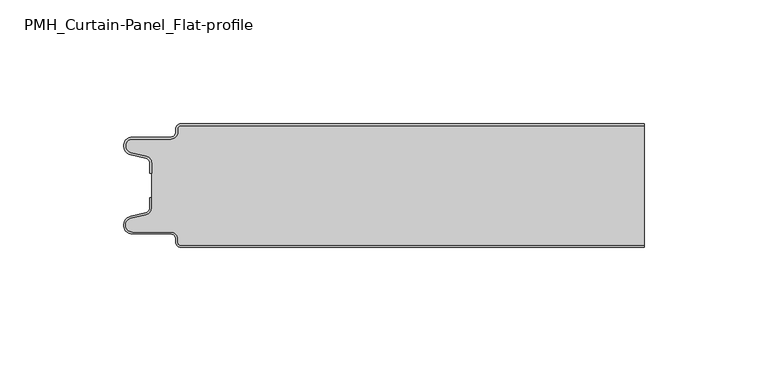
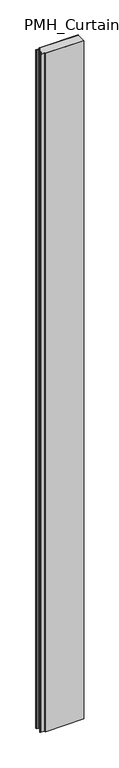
"""IFC4 building model written with IfcOpenShell, lengths in millimetres: plate geometry, PMH_Curtain-Panel_Flat-profile : ACH_PMH_Stone-wool-Panel_50M."""

from ifc_helpers import new_model, si_unit, point, frame_2d, origin, origin_with_axes, place, context, project, spatial, polyline, circle_curve, trimmed, segment, composite_curve, outline, extrude, source, transform, mapped, element, save


def pmh_curtain_panel_flat_profile_cc251eb6(model_context):
    return source(origin(), model_context, "Body", "SweptSolid", [
        extrude(outline(composite_curve([segment(trimmed(circle_curve(frame_2d((-87.4119739, -2.0)), 1.2), [point((-87.4119739, -0.8))], [point((-88.6119739, -2.0))], True, "CARTESIAN"), True, "CONTINUOUS"), segment(polyline([(-88.6119739, -2.0), (-88.6119739, -3.4)]), True, "CONTINUOUS"), segment(trimmed(circle_curve(frame_2d((-91.4119739, -3.4)), 2.8), [point((-88.6119739, -3.4))], [point((-91.4119739, -6.2))], False, "CARTESIAN"), True, "CONTINUOUS"), segment(polyline([(-91.4119739, -6.2), (-106.9119739, -6.2)]), True, "CONTINUOUS"), segment(trimmed(circle_curve(frame_2d((-106.9119739, -9.0)), 2.8), [point((-106.9119739, -6.2))], [point((-107.541837, -11.7282362))], True, "CARTESIAN"), True, "CONTINUOUS"), segment(polyline([(-107.541837, -11.7282362), (-101.3821109, -13.150321)]), True, "CONTINUOUS"), segment(trimmed(circle_curve(frame_2d((-102.0119739, -15.878557)), 2.8), [point((-101.3821109, -13.150321))], [point((-99.2119739, -15.878557))], False, "CARTESIAN"), True, "CONTINUOUS"), segment(polyline([(-99.2119739, -15.878557), (-99.2119739, -20.0), (-100.0119739, -20.0), (-100.0119739, -15.878557)]), True, "CONTINUOUS"), segment(trimmed(circle_curve(frame_2d((-102.0119739, -15.878557)), 2.0), [point((-100.0119739, -15.878557))], [point((-101.5620718, -13.9298169))], True, "CARTESIAN"), True, "CONTINUOUS"), segment(polyline([(-101.5620718, -13.9298169), (-107.7217978, -12.507732)]), True, "CONTINUOUS"), segment(trimmed(circle_curve(frame_2d((-106.9119739, -9.0)), 3.6), [point((-107.7217978, -12.507732))], [point((-106.9119739, -5.4))], False, "CARTESIAN"), True, "CONTINUOUS"), segment(polyline([(-106.9119739, -5.4), (-91.4119739, -5.4)]), True, "CONTINUOUS"), segment(trimmed(circle_curve(frame_2d((-91.4119739, -3.4)), 2.0), [point((-91.4119739, -5.4))], [point((-89.4119739, -3.4))], True, "CARTESIAN"), True, "CONTINUOUS"), segment(polyline([(-89.4119739, -3.4), (-89.4119739, -2.0)]), True, "CONTINUOUS"), segment(trimmed(circle_curve(frame_2d((-87.4119739, -2.0)), 2.0), [point((-89.4119739, -2.0))], [point((-87.4119739, 0.0))], False, "CARTESIAN"), True, "CONTINUOUS"), segment(polyline([(-87.4119739, 0.0), (100.0119739, 0.0), (100.0119739, -0.8), (-87.4119739, -0.8)]), True, "CONTINUOUS")], self_intersect=False)), origin_with_axes(), (0.0, 0.0, 1.0), 3500.0),
        extrude(outline(composite_curve([segment(polyline([(-99.2119739, -34.1214426), (-99.2119739, -15.8785573)]), True, "CONTINUOUS"), segment(trimmed(circle_curve(frame_2d((-102.0119739, -15.8785573)), 2.8), [point((-99.2119739, -15.8785573))], [point((-101.3821109, -13.1503212))], True, "CARTESIAN"), True, "CONTINUOUS"), segment(polyline([(-101.3821109, -13.1503212), (-107.541837, -11.7282362)]), True, "CONTINUOUS"), segment(trimmed(circle_curve(frame_2d((-106.911974, -9.0)), 2.8), [point((-107.541837, -11.7282362))], [point((-106.911974, -6.2))], False, "CARTESIAN"), True, "CONTINUOUS"), segment(polyline([(-106.911974, -6.2), (-91.411974, -6.2)]), True, "CONTINUOUS"), segment(trimmed(circle_curve(frame_2d((-91.411974, -3.4)), 2.8), [point((-91.411974, -6.2))], [point((-88.611974, -3.4))], True, "CARTESIAN"), True, "CONTINUOUS"), segment(polyline([(-88.611974, -3.4), (-88.611974, -2.0)]), True, "CONTINUOUS"), segment(trimmed(circle_curve(frame_2d((-87.411974, -2.0)), 1.2), [point((-88.611974, -2.0))], [point((-87.411974, -0.8))], False, "CARTESIAN"), True, "CONTINUOUS"), segment(polyline([(-87.411974, -0.8), (100.0119739, -0.8), (100.0119739, -49.2), (-87.411974, -49.2)]), True, "CONTINUOUS"), segment(trimmed(circle_curve(frame_2d((-87.411974, -48.0)), 1.2), [point((-87.411974, -49.2))], [point((-88.611974, -48.0))], False, "CARTESIAN"), True, "CONTINUOUS"), segment(polyline([(-88.611974, -48.0), (-88.611974, -46.6)]), True, "CONTINUOUS"), segment(trimmed(circle_curve(frame_2d((-91.411974, -46.6)), 2.8), [point((-88.611974, -46.6))], [point((-91.411974, -43.8))], True, "CARTESIAN"), True, "CONTINUOUS"), segment(polyline([(-91.411974, -43.8), (-106.911974, -43.8)]), True, "CONTINUOUS"), segment(trimmed(circle_curve(frame_2d((-106.911974, -41.0)), 2.8), [point((-106.911974, -43.8))], [point((-107.541837, -38.2717638))], False, "CARTESIAN"), True, "CONTINUOUS"), segment(polyline([(-107.541837, -38.2717638), (-101.3821109, -36.8496788)]), True, "CONTINUOUS"), segment(trimmed(circle_curve(frame_2d((-102.0119739, -34.1214426)), 2.8), [point((-101.3821109, -36.8496788))], [point((-99.2119739, -34.1214426))], True, "CARTESIAN"), True, "CONTINUOUS")], self_intersect=False)), origin_with_axes(), (0.0, 0.0, 1.0), 3500.0),
        extrude(outline(composite_curve([segment(trimmed(circle_curve(frame_2d((-87.4119739, -48.0)), 2.0), [point((-87.4119739, -50.0))], [point((-89.4119739, -48.0))], False, "CARTESIAN"), True, "CONTINUOUS"), segment(polyline([(-89.4119739, -48.0), (-89.4119739, -46.6)]), True, "CONTINUOUS"), segment(trimmed(circle_curve(frame_2d((-91.4119739, -46.6)), 2.0), [point((-89.4119739, -46.6))], [point((-91.4119739, -44.6))], True, "CARTESIAN"), True, "CONTINUOUS"), segment(polyline([(-91.4119739, -44.6), (-106.9119739, -44.6)]), True, "CONTINUOUS"), segment(trimmed(circle_curve(frame_2d((-106.9119739, -41.0)), 3.6), [point((-106.9119739, -44.6))], [point((-107.7217979, -37.4922678))], False, "CARTESIAN"), True, "CONTINUOUS"), segment(polyline([(-107.7217979, -37.4922678), (-101.5620718, -36.070183)]), True, "CONTINUOUS"), segment(trimmed(circle_curve(frame_2d((-102.0119739, -34.121443)), 2.0), [point((-101.5620718, -36.070183))], [point((-100.0119739, -34.121443))], True, "CARTESIAN"), True, "CONTINUOUS"), segment(polyline([(-100.0119739, -34.121443), (-100.0119739, -30.0), (-99.2119739, -30.0), (-99.2119739, -34.121443)]), True, "CONTINUOUS"), segment(trimmed(circle_curve(frame_2d((-102.0119739, -34.121443)), 2.8), [point((-99.2119739, -34.121443))], [point((-101.3821109, -36.8496792))], False, "CARTESIAN"), True, "CONTINUOUS"), segment(polyline([(-101.3821109, -36.8496792), (-107.5418369, -38.271764)]), True, "CONTINUOUS"), segment(trimmed(circle_curve(frame_2d((-106.9119739, -41.0)), 2.8), [point((-107.5418369, -38.271764))], [point((-106.9119739, -43.8))], True, "CARTESIAN"), True, "CONTINUOUS"), segment(polyline([(-106.9119739, -43.8), (-91.4119739, -43.8)]), True, "CONTINUOUS"), segment(trimmed(circle_curve(frame_2d((-91.4119739, -46.6)), 2.8), [point((-91.4119739, -43.8))], [point((-88.6119739, -46.6))], False, "CARTESIAN"), True, "CONTINUOUS"), segment(polyline([(-88.6119739, -46.6), (-88.6119739, -48.0)]), True, "CONTINUOUS"), segment(trimmed(circle_curve(frame_2d((-87.4119739, -48.0)), 1.2), [point((-88.6119739, -48.0))], [point((-87.4119739, -49.2))], True, "CARTESIAN"), True, "CONTINUOUS"), segment(polyline([(-87.4119739, -49.2), (100.0119739, -49.2), (100.0119739, -50.0), (-87.4119739, -50.0)]), True, "CONTINUOUS")], self_intersect=False)), origin_with_axes(), (0.0, 0.0, 1.0), 3500.0),
    ])


if __name__ == "__main__":
    model = new_model("IFC4")
    model_context = context("Model", 3, world=origin())
    ifc_project = project(units=[si_unit("LENGTHUNIT", "METRE", prefix="MILLI")], contexts=[model_context])
    site = spatial("IfcSite", under=ifc_project)
    building = spatial("IfcBuilding", under=site)
    placement = place(None, origin())
    pmh_curtain_panel_flat_profile_shape = pmh_curtain_panel_flat_profile_cc251eb6(model_context)
    element("IfcPlate", 1, ObjectType="PMH_Curtain-Panel_Flat-profile : ACH_PMH_Stone-wool-Panel_50M", at=placement, inside=building, context=model_context, shape_type="MappedRepresentation", body=[
        mapped(pmh_curtain_panel_flat_profile_shape, transform((0.0, 0.0, 0.0), x_axis=(1.0, 0.0, 0.0), y_axis=(0.0, 1.0, 0.0), z_axis=(0.0, 0.0, 1.0))),
    ])
    save(model, "model.ifc")
